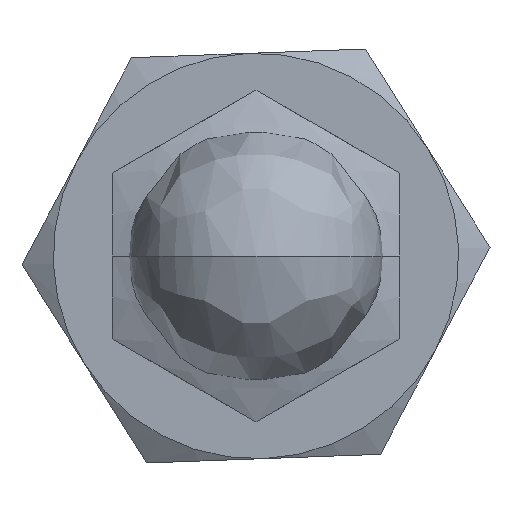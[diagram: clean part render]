
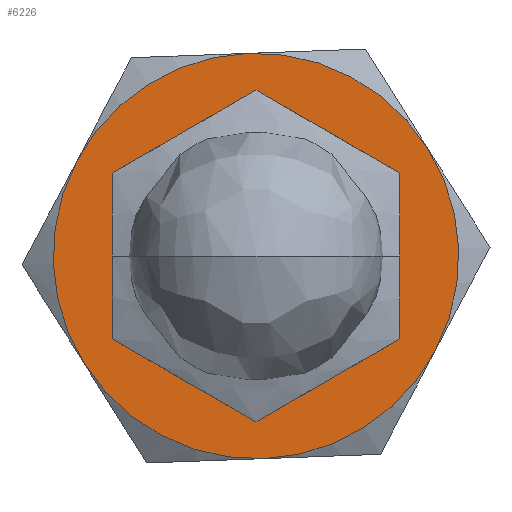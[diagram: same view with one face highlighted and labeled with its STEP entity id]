
A CAD part, front view. The second image highlights one B-rep face of the part: STEP entity #6226.
In plain terms, the highlighted planar face has unit normal (0, -1, 0).
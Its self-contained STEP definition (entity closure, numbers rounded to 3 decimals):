
#91 = AXIS2_PLACEMENT_3D ( 'NONE', #1412, #1477, #15219 ) ;
#277 = CARTESIAN_POINT ( 'NONE',  ( -86.885, 130.093, 41.709 ) ) ;
#797 = CIRCLE ( 'NONE', #1979, 12. ) ;
#938 = CARTESIAN_POINT ( 'NONE',  ( -86.885, 130.093, 41.709 ) ) ;
#1038 = CIRCLE ( 'NONE', #4943, 12. ) ;
#1040 = AXIS2_PLACEMENT_3D ( 'NONE', #17629, #9804, #15955 ) ;
#1331 = CARTESIAN_POINT ( 'NONE',  ( -80.407, 130.093, 53.957 ) ) ;
#1391 = VERTEX_POINT ( 'NONE', #12767 ) ;
#1412 = CARTESIAN_POINT ( 'NONE',  ( -86.885, 130.093, 41.709 ) ) ;
#1477 = DIRECTION ( 'NONE',  ( 0., 1., 0. ) ) ;
#1820 = DIRECTION ( 'NONE',  ( 0., 1., 0. ) ) ;
#1979 = AXIS2_PLACEMENT_3D ( 'NONE', #9627, #12842, #3637 ) ;
#2262 = DIRECTION ( 'NONE',  ( 0.884, 0., -0.468 ) ) ;
#2319 = ORIENTED_EDGE ( 'NONE', *, *, #12868, .T. ) ;
#2741 = PLANE ( 'NONE',  #6082 ) ;
#3637 = DIRECTION ( 'NONE',  ( 0.884, 0., -0.468 ) ) ;
#4066 = FACE_OUTER_BOUND ( 'NONE', #4730, .T. ) ;
#4532 = ORIENTED_EDGE ( 'NONE', *, *, #19036, .F. ) ;
#4730 = EDGE_LOOP ( 'NONE', ( #6115, #15588, #13864, #13064, #4532, #10113 ) ) ;
#4943 = AXIS2_PLACEMENT_3D ( 'NONE', #277, #1820, #12732 ) ;
#5415 = CARTESIAN_POINT ( 'NONE',  ( -79.814, 130.093, 37.968 ) ) ;
#6082 = AXIS2_PLACEMENT_3D ( 'NONE', #1331, #7591, #7331 ) ;
#6115 = ORIENTED_EDGE ( 'NONE', *, *, #7021, .F. ) ;
#6226 = ADVANCED_FACE ( 'NONE', ( #11561, #4066 ), #2741, .T. ) ;
#6229 = CIRCLE ( 'NONE', #17784, 12. ) ;
#7021 = EDGE_CURVE ( 'NONE', #13159, #13761, #7453, .T. ) ;
#7066 = DIRECTION ( 'NONE',  ( -0.884, 0., 0.468 ) ) ;
#7074 = CARTESIAN_POINT ( 'NONE',  ( -97.048, 130.093, 35.327 ) ) ;
#7331 = DIRECTION ( 'NONE',  ( 0.884, 0., -0.468 ) ) ;
#7453 = CIRCLE ( 'NONE', #13537, 12. ) ;
#7591 = DIRECTION ( 'NONE',  ( 0., -1., 0. ) ) ;
#8026 = CARTESIAN_POINT ( 'NONE',  ( -97.493, 130.093, 47.319 ) ) ;
#8087 = CARTESIAN_POINT ( 'NONE',  ( -86.44, 130.093, 29.717 ) ) ;
#8718 = CIRCLE ( 'NONE', #13126, 12. ) ;
#9627 = CARTESIAN_POINT ( 'NONE',  ( -86.885, 130.093, 41.709 ) ) ;
#9804 = DIRECTION ( 'NONE',  ( 0., 1., 0. ) ) ;
#10113 = ORIENTED_EDGE ( 'NONE', *, *, #11300, .F. ) ;
#10143 = VERTEX_POINT ( 'NONE', #5415 ) ;
#10252 = CARTESIAN_POINT ( 'NONE',  ( -76.723, 130.093, 48.09 ) ) ;
#11300 = EDGE_CURVE ( 'NONE', #13761, #16633, #797, .T. ) ;
#11344 = AXIS2_PLACEMENT_3D ( 'NONE', #11462, #17524, #17448 ) ;
#11462 = CARTESIAN_POINT ( 'NONE',  ( -86.885, 130.093, 41.709 ) ) ;
#11465 = ORIENTED_EDGE ( 'NONE', *, *, #14588, .T. ) ;
#11561 = FACE_BOUND ( 'NONE', #14879, .T. ) ;
#11673 = CARTESIAN_POINT ( 'NONE',  ( -86.885, 130.093, 41.709 ) ) ;
#12615 = CARTESIAN_POINT ( 'NONE',  ( -76.278, 130.093, 36.098 ) ) ;
#12732 = DIRECTION ( 'NONE',  ( 0.884, 0., -0.468 ) ) ;
#12767 = CARTESIAN_POINT ( 'NONE',  ( -87.33, 130.093, 53.7 ) ) ;
#12842 = DIRECTION ( 'NONE',  ( 0., 1., 0. ) ) ;
#12868 = EDGE_CURVE ( 'NONE', #12915, #10143, #18121, .T. ) ;
#12915 = VERTEX_POINT ( 'NONE', #13053 ) ;
#13053 = CARTESIAN_POINT ( 'NONE',  ( -93.957, 130.093, 45.449 ) ) ;
#13064 = ORIENTED_EDGE ( 'NONE', *, *, #14432, .F. ) ;
#13126 = AXIS2_PLACEMENT_3D ( 'NONE', #11673, #17858, #7066 ) ;
#13159 = VERTEX_POINT ( 'NONE', #12615 ) ;
#13537 = AXIS2_PLACEMENT_3D ( 'NONE', #938, #19411, #2262 ) ;
#13761 = VERTEX_POINT ( 'NONE', #8087 ) ;
#13864 = ORIENTED_EDGE ( 'NONE', *, *, #17136, .F. ) ;
#14194 = CIRCLE ( 'NONE', #91, 8. ) ;
#14432 = EDGE_CURVE ( 'NONE', #15247, #1391, #8718, .T. ) ;
#14588 = EDGE_CURVE ( 'NONE', #10143, #12915, #14194, .T. ) ;
#14879 = EDGE_LOOP ( 'NONE', ( #2319, #11465 ) ) ;
#15219 = DIRECTION ( 'NONE',  ( 0.884, 0., -0.468 ) ) ;
#15247 = VERTEX_POINT ( 'NONE', #8026 ) ;
#15588 = ORIENTED_EDGE ( 'NONE', *, *, #17682, .F. ) ;
#15955 = DIRECTION ( 'NONE',  ( 0.884, 0., -0.468 ) ) ;
#16144 = CARTESIAN_POINT ( 'NONE',  ( -86.885, 130.093, 41.709 ) ) ;
#16213 = DIRECTION ( 'NONE',  ( 0., 1., 0. ) ) ;
#16633 = VERTEX_POINT ( 'NONE', #7074 ) ;
#17136 = EDGE_CURVE ( 'NONE', #1391, #18270, #18227, .T. ) ;
#17448 = DIRECTION ( 'NONE',  ( 0.884, 0., -0.468 ) ) ;
#17524 = DIRECTION ( 'NONE',  ( 0., 1., 0. ) ) ;
#17629 = CARTESIAN_POINT ( 'NONE',  ( -86.885, 130.093, 41.709 ) ) ;
#17682 = EDGE_CURVE ( 'NONE', #18270, #13159, #6229, .T. ) ;
#17784 = AXIS2_PLACEMENT_3D ( 'NONE', #16144, #16213, #19241 ) ;
#17858 = DIRECTION ( 'NONE',  ( 0., 1., 0. ) ) ;
#18121 = CIRCLE ( 'NONE', #11344, 8. ) ;
#18227 = CIRCLE ( 'NONE', #1040, 12. ) ;
#18270 = VERTEX_POINT ( 'NONE', #10252 ) ;
#19036 = EDGE_CURVE ( 'NONE', #16633, #15247, #1038, .T. ) ;
#19241 = DIRECTION ( 'NONE',  ( 0.884, 0., -0.468 ) ) ;
#19411 = DIRECTION ( 'NONE',  ( 0., 1., 0. ) ) ;
